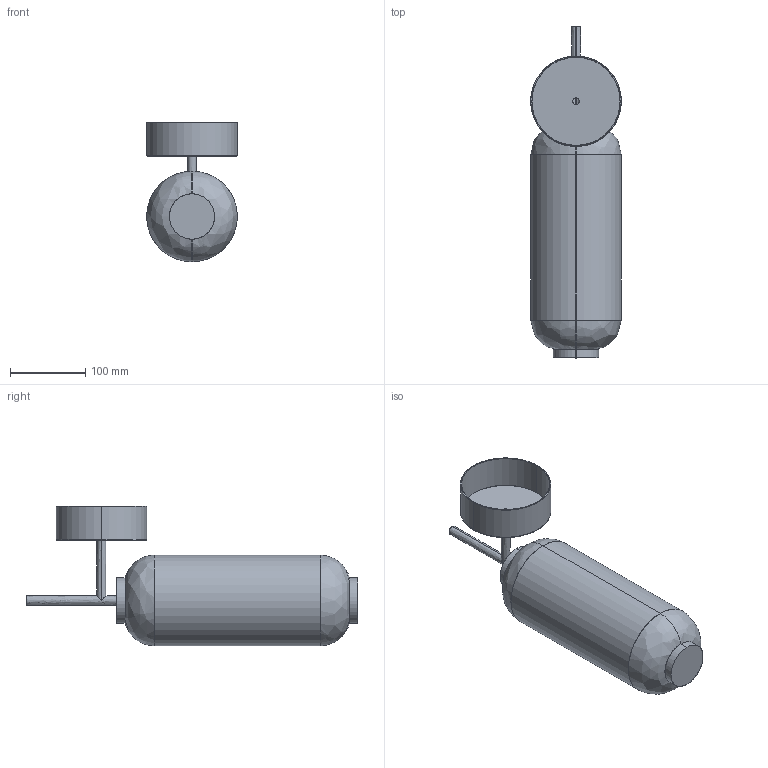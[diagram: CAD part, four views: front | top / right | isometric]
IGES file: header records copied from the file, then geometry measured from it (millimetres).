
Start section: SolidWorks IGES file using analytic representation for surfaces
Global section: file name: C:\Users\adrian\Desktop\MODELADOS USA\ELMA\AU1312\ELMA_AU1312.IGS; native system: SolidWorks 2023; preprocessor: SolidWorks 2023; author: adrian; date: 260605.100700; units: inch
Bounding box: 120 x 440 x 184.96 mm (x, y, z)
Surface area: 370090.5 mm2 (no closed solid volume)
Topology: 0 solids, 0 shells, 57 faces, 1400 edges, 1400 vertices
Faces by surface type: bspline 31, revolution 26
